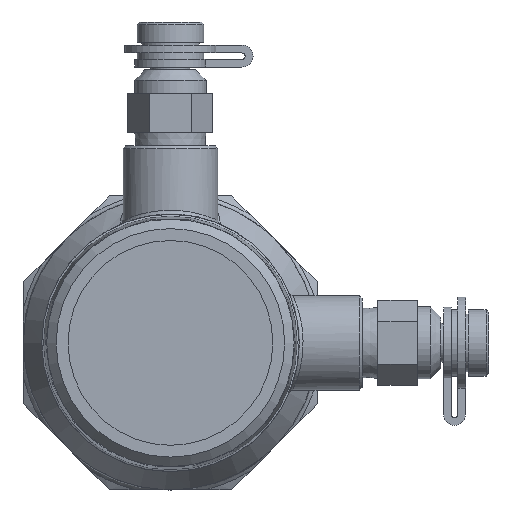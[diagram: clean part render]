
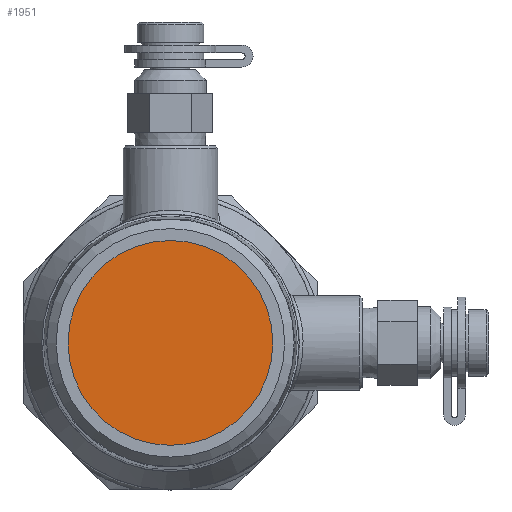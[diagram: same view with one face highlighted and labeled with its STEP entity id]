
A CAD part, front view. The second image highlights one B-rep face of the part: STEP entity #1951.
In plain terms, the highlighted free-form (B-spline) face has degree [1, 1] with [2, 2] control points.
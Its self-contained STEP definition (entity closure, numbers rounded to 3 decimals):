
#1931=CARTESIAN_POINT('',(19.5,12.7,0.0));
#1932=VERTEX_POINT('',#1931);
#1933=CARTESIAN_POINT('',(0.,12.7,0.0));
#1934=DIRECTION('',(0.0,-1.0,0.0));
#1935=DIRECTION('',(1.0,0.0,0.0));
#1936=AXIS2_PLACEMENT_3D('',#1933,#1934,#1935);
#1937=CIRCLE('',#1936,19.5);
#1938=EDGE_CURVE('',#1932,#1932,#1937,.T.);
#1943=CARTESIAN_POINT('',(-19.5,12.7,19.5));
#1944=CARTESIAN_POINT('',(19.5,12.7,19.5));
#1945=CARTESIAN_POINT('',(-19.5,12.7,-19.5));
#1946=CARTESIAN_POINT('',(19.5,12.7,-19.5));
#1947=B_SPLINE_SURFACE_WITH_KNOTS('',1,1,((#1943,#1945),(#1944,#1946)),.UNSPECIFIED.,.F.,.F.,.U.,(2,2),(2,2),(0.0,39.0),(0.0,39.0),.UNSPECIFIED.);
#1948=ORIENTED_EDGE('',*,*,#1938,.T.);
#1949=EDGE_LOOP('',(#1948));
#1950=FACE_OUTER_BOUND('',#1949,.T.);
#1951=ADVANCED_FACE('',(#1950),#1947,.F.);
